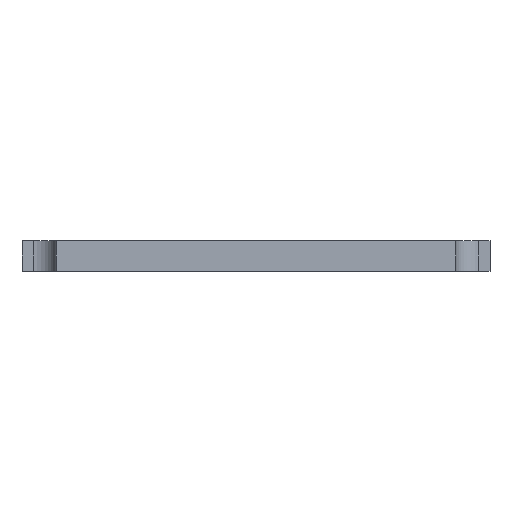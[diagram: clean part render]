
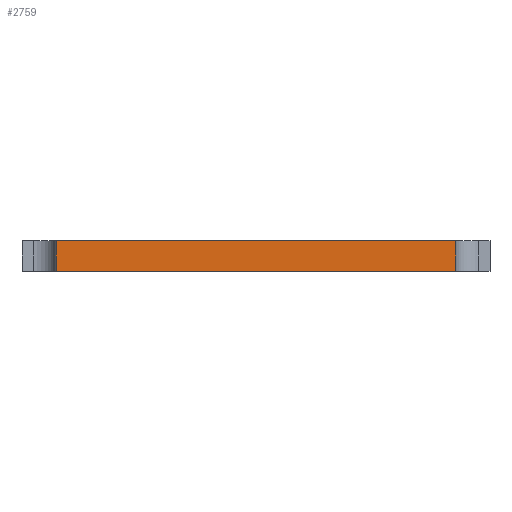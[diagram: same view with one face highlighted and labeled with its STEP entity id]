
A CAD part, front view. The second image highlights one B-rep face of the part: STEP entity #2759.
In plain terms, the highlighted planar face has unit normal (0, -1, 0).
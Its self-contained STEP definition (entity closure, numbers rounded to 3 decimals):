
#608 = EDGE_CURVE ( 'NONE', #25305, #11949, #17259, .T. ) ;
#1260 = CARTESIAN_POINT ( 'NONE',  ( 10.4, -6., 0.8 ) ) ;
#1341 = LINE ( 'NONE', #20820, #15050 ) ;
#2759 = ADVANCED_FACE ( 'NONE', ( #21130 ), #3209, .T. ) ;
#3209 = PLANE ( 'NONE',  #21749 ) ;
#3979 = LINE ( 'NONE', #11862, #7576 ) ;
#5855 = ORIENTED_EDGE ( 'NONE', *, *, #608, .F. ) ;
#6520 = ORIENTED_EDGE ( 'NONE', *, *, #24360, .T. ) ;
#7207 = DIRECTION ( 'NONE',  ( 0., 0., -1. ) ) ;
#7576 = VECTOR ( 'NONE', #19961, 1000. ) ;
#8205 = ORIENTED_EDGE ( 'NONE', *, *, #17369, .T. ) ;
#8584 = VERTEX_POINT ( 'NONE', #18652 ) ;
#11138 = VECTOR ( 'NONE', #7207, 1000. ) ;
#11188 = ORIENTED_EDGE ( 'NONE', *, *, #16776, .F. ) ;
#11428 = DIRECTION ( 'NONE',  ( 1., 0., 0. ) ) ;
#11634 = CARTESIAN_POINT ( 'NONE',  ( -13.15, -6., 0.8 ) ) ;
#11862 = CARTESIAN_POINT ( 'NONE',  ( -10.4, -6., 0.8 ) ) ;
#11949 = VERTEX_POINT ( 'NONE', #22378 ) ;
#12904 = CARTESIAN_POINT ( 'NONE',  ( -13.15, -6., -0.8 ) ) ;
#13355 = CARTESIAN_POINT ( 'NONE',  ( 10.4, -6., 0.8 ) ) ;
#14945 = VERTEX_POINT ( 'NONE', #16965 ) ;
#15050 = VECTOR ( 'NONE', #11428, 1000. ) ;
#15120 = DIRECTION ( 'NONE',  ( 1., 0., 0. ) ) ;
#16776 = EDGE_CURVE ( 'NONE', #14945, #25305, #25414, .T. ) ;
#16965 = CARTESIAN_POINT ( 'NONE',  ( -10.4, -6., 0.8 ) ) ;
#17259 = LINE ( 'NONE', #1260, #11138 ) ;
#17369 = EDGE_CURVE ( 'NONE', #14945, #8584, #3979, .T. ) ;
#18652 = CARTESIAN_POINT ( 'NONE',  ( -10.4, -6., -0.8 ) ) ;
#18826 = DIRECTION ( 'NONE',  ( 0., -1., 0. ) ) ;
#19056 = VECTOR ( 'NONE', #15120, 1000. ) ;
#19961 = DIRECTION ( 'NONE',  ( 0., 0., -1. ) ) ;
#20820 = CARTESIAN_POINT ( 'NONE',  ( -13.15, -6., -0.8 ) ) ;
#21130 = FACE_OUTER_BOUND ( 'NONE', #22196, .T. ) ;
#21749 = AXIS2_PLACEMENT_3D ( 'NONE', #12904, #18826, #24882 ) ;
#22196 = EDGE_LOOP ( 'NONE', ( #5855, #11188, #8205, #6520 ) ) ;
#22378 = CARTESIAN_POINT ( 'NONE',  ( 10.4, -6., -0.8 ) ) ;
#24360 = EDGE_CURVE ( 'NONE', #8584, #11949, #1341, .T. ) ;
#24882 = DIRECTION ( 'NONE',  ( 0., 0., -1. ) ) ;
#25305 = VERTEX_POINT ( 'NONE', #13355 ) ;
#25414 = LINE ( 'NONE', #11634, #19056 ) ;
